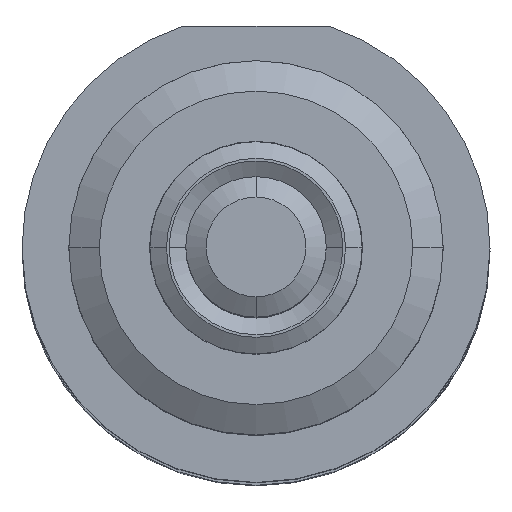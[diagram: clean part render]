
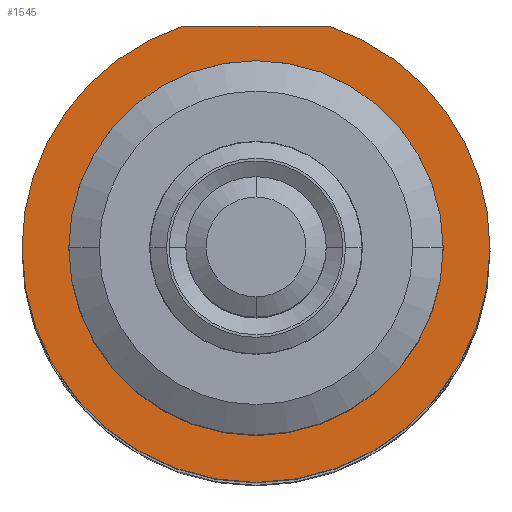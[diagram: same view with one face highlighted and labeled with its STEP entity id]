
A CAD part, top view. The second image highlights one B-rep face of the part: STEP entity #1545.
In plain terms, the highlighted planar face has unit normal (0, 0, 1).
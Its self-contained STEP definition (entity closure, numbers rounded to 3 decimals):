
#1136 = VERTEX_POINT ( 'NONE', #4873 ) ;
#1186 = EDGE_CURVE ( 'NONE', #1187, #1201, #4970, .T. ) ;
#1187 = VERTEX_POINT ( 'NONE', #4966 ) ;
#1193 = EDGE_CURVE ( 'NONE', #1136, #1194, #4960, .T. ) ;
#1194 = VERTEX_POINT ( 'NONE', #4955 ) ;
#1200 = EDGE_CURVE ( 'NONE', #1201, #1202, #5009, .T. ) ;
#1201 = VERTEX_POINT ( 'NONE', #5004 ) ;
#1202 = VERTEX_POINT ( 'NONE', #5003 ) ;
#1483 = VERTEX_POINT ( 'NONE', #5523 ) ;
#1522 = EDGE_CURVE ( 'NONE', #1194, #1136, #5597, .T. ) ;
#1523 = ORIENTED_EDGE ( 'NONE', *, *, #1193, .F. ) ;
#1524 = EDGE_LOOP ( 'NONE', ( #1525, #1526, #1527, #1528 ) ) ;
#1525 = ORIENTED_EDGE ( 'NONE', *, *, #1541, .T. ) ;
#1526 = ORIENTED_EDGE ( 'NONE', *, *, #1186, .T. ) ;
#1527 = ORIENTED_EDGE ( 'NONE', *, *, #1200, .T. ) ;
#1528 = ORIENTED_EDGE ( 'NONE', *, *, #1536, .T. ) ;
#1536 = EDGE_CURVE ( 'NONE', #1202, #1483, #5649, .T. ) ;
#1541 = EDGE_CURVE ( 'NONE', #1483, #1187, #5638, .T. ) ;
#1545 = ADVANCED_FACE ( 'NONE', ( #5634, #5633 ), #5632, .T. ) ;
#1546 = EDGE_LOOP ( 'NONE', ( #1547, #1523 ) ) ;
#1547 = ORIENTED_EDGE ( 'NONE', *, *, #1522, .F. ) ;
#4873 = CARTESIAN_POINT ( 'NONE',  ( 8., 0., 18. ) ) ;
#4949 = CARTESIAN_POINT ( 'NONE',  ( 0., 0., 18. ) ) ;
#4955 = CARTESIAN_POINT ( 'NONE',  ( -8., 0., 18. ) ) ;
#4956 = DIRECTION ( 'NONE',  ( 1., 0., 0. ) ) ;
#4957 = DIRECTION ( 'NONE',  ( 0., 0., 1. ) ) ;
#4958 = CARTESIAN_POINT ( 'NONE',  ( 0., 0., 18. ) ) ;
#4959 = AXIS2_PLACEMENT_3D ( 'NONE', #4958, #4957, #4956 ) ;
#4960 = CIRCLE ( 'NONE', #4959, 8. ) ;
#4966 = CARTESIAN_POINT ( 'NONE',  ( -10., 0., 18. ) ) ;
#4967 = DIRECTION ( 'NONE',  ( 1., 0., 0. ) ) ;
#4968 = DIRECTION ( 'NONE',  ( 0., 0., 1. ) ) ;
#4969 = AXIS2_PLACEMENT_3D ( 'NONE', #4975, #4968, #4967 ) ;
#4970 = CIRCLE ( 'NONE', #4969, 10. ) ;
#4975 = CARTESIAN_POINT ( 'NONE',  ( 0., 0., 18. ) ) ;
#5003 = CARTESIAN_POINT ( 'NONE',  ( 3.122, 9.5, 18. ) ) ;
#5004 = CARTESIAN_POINT ( 'NONE',  ( 10., 0., 18. ) ) ;
#5006 = DIRECTION ( 'NONE',  ( 1., 0., 0. ) ) ;
#5007 = DIRECTION ( 'NONE',  ( 0., 0., 1. ) ) ;
#5008 = AXIS2_PLACEMENT_3D ( 'NONE', #4949, #5007, #5006 ) ;
#5009 = CIRCLE ( 'NONE', #5008, 10. ) ;
#5523 = CARTESIAN_POINT ( 'NONE',  ( -3.122, 9.5, 18. ) ) ;
#5594 = DIRECTION ( 'NONE',  ( 1., 0., 0. ) ) ;
#5595 = DIRECTION ( 'NONE',  ( 0., 0., 1. ) ) ;
#5596 = AXIS2_PLACEMENT_3D ( 'NONE', #5602, #5595, #5594 ) ;
#5597 = CIRCLE ( 'NONE', #5596, 8. ) ;
#5602 = CARTESIAN_POINT ( 'NONE',  ( 0., 0., 18. ) ) ;
#5628 = DIRECTION ( 'NONE',  ( 1., 0., 0. ) ) ;
#5629 = DIRECTION ( 'NONE',  ( 0., 0., 1. ) ) ;
#5630 = CARTESIAN_POINT ( 'NONE',  ( 0., 0., 18. ) ) ;
#5631 = AXIS2_PLACEMENT_3D ( 'NONE', #5630, #5629, #5628 ) ;
#5632 = PLANE ( 'NONE',  #5631 ) ;
#5633 = FACE_OUTER_BOUND ( 'NONE', #1524, .T. ) ;
#5634 = FACE_BOUND ( 'NONE', #1546, .T. ) ;
#5635 = DIRECTION ( 'NONE',  ( 1., 0., 0. ) ) ;
#5636 = DIRECTION ( 'NONE',  ( 0., 0., 1. ) ) ;
#5637 = AXIS2_PLACEMENT_3D ( 'NONE', #5643, #5636, #5635 ) ;
#5638 = CIRCLE ( 'NONE', #5637, 10. ) ;
#5643 = CARTESIAN_POINT ( 'NONE',  ( 0., 0., 18. ) ) ;
#5646 = DIRECTION ( 'NONE',  ( -1., 0., 0. ) ) ;
#5647 = VECTOR ( 'NONE', #5646, 1000. ) ;
#5648 = CARTESIAN_POINT ( 'NONE',  ( 0., 9.5, 18. ) ) ;
#5649 = LINE ( 'NONE', #5648, #5647 ) ;
